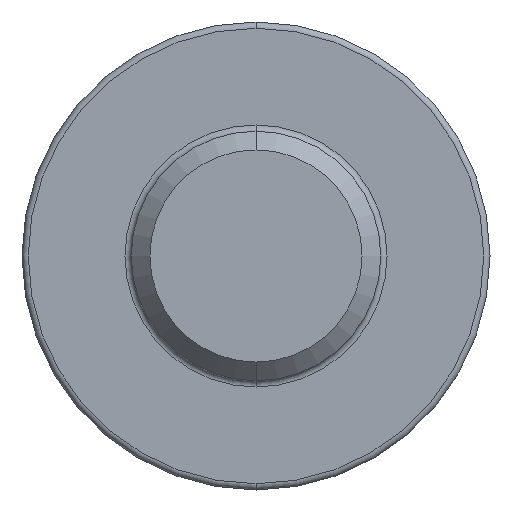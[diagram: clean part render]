
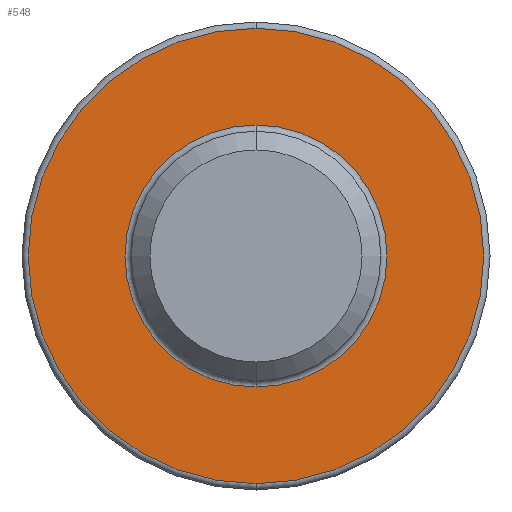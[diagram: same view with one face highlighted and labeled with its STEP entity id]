
A CAD part, front view. The second image highlights one B-rep face of the part: STEP entity #548.
In plain terms, the highlighted planar face has unit normal (0, -1, 0).
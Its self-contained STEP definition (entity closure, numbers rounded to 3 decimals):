
#40 = AXIS2_PLACEMENT_3D ( 'NONE', #299, #102, #641 ) ;
#79 = AXIS2_PLACEMENT_3D ( 'NONE', #789, #677, #83 ) ;
#83 = DIRECTION ( 'NONE',  ( 0., 0., 1. ) ) ;
#100 = CARTESIAN_POINT ( 'NONE',  ( 0., -2.4, 0. ) ) ;
#102 = DIRECTION ( 'NONE',  ( 0., 1., 0. ) ) ;
#158 = CARTESIAN_POINT ( 'NONE',  ( 0., -2.4, 3.65 ) ) ;
#167 = CARTESIAN_POINT ( 'NONE',  ( 0., -2.4, -2.1 ) ) ;
#183 = VERTEX_POINT ( 'NONE', #686 ) ;
#194 = EDGE_LOOP ( 'NONE', ( #796, #377 ) ) ;
#209 = VERTEX_POINT ( 'NONE', #158 ) ;
#244 = EDGE_LOOP ( 'NONE', ( #492, #826 ) ) ;
#256 = DIRECTION ( 'NONE',  ( 0., 0., 1. ) ) ;
#257 = CARTESIAN_POINT ( 'NONE',  ( 0., -2.4, 0. ) ) ;
#294 = VERTEX_POINT ( 'NONE', #167 ) ;
#296 = EDGE_CURVE ( 'NONE', #183, #294, #430, .T. ) ;
#299 = CARTESIAN_POINT ( 'NONE',  ( 2., -2.4, 0. ) ) ;
#315 = CARTESIAN_POINT ( 'NONE',  ( 0., -2.4, 0. ) ) ;
#320 = CARTESIAN_POINT ( 'NONE',  ( 0., -2.4, -3.65 ) ) ;
#370 = FACE_OUTER_BOUND ( 'NONE', #244, .T. ) ;
#377 = ORIENTED_EDGE ( 'NONE', *, *, #396, .T. ) ;
#396 = EDGE_CURVE ( 'NONE', #294, #183, #398, .T. ) ;
#398 = CIRCLE ( 'NONE', #79, 2.1 ) ;
#430 = CIRCLE ( 'NONE', #671, 2.1 ) ;
#480 = DIRECTION ( 'NONE',  ( 0., -1., 0. ) ) ;
#483 = EDGE_CURVE ( 'NONE', #209, #834, #484, .T. ) ;
#484 = CIRCLE ( 'NONE', #582, 3.65 ) ;
#485 = FACE_BOUND ( 'NONE', #194, .T. ) ;
#492 = ORIENTED_EDGE ( 'NONE', *, *, #483, .T. ) ;
#548 = ADVANCED_FACE ( 'NONE', ( #485, #370 ), #623, .F. ) ;
#566 = DIRECTION ( 'NONE',  ( 0., 1., 0. ) ) ;
#582 = AXIS2_PLACEMENT_3D ( 'NONE', #257, #480, #614 ) ;
#612 = AXIS2_PLACEMENT_3D ( 'NONE', #315, #854, #256 ) ;
#614 = DIRECTION ( 'NONE',  ( 0., 0., 1. ) ) ;
#623 = PLANE ( 'NONE',  #40 ) ;
#635 = DIRECTION ( 'NONE',  ( 0., 0., 1. ) ) ;
#641 = DIRECTION ( 'NONE',  ( 0., 0., 1. ) ) ;
#671 = AXIS2_PLACEMENT_3D ( 'NONE', #100, #566, #635 ) ;
#677 = DIRECTION ( 'NONE',  ( 0., 1., 0. ) ) ;
#683 = CIRCLE ( 'NONE', #612, 3.65 ) ;
#686 = CARTESIAN_POINT ( 'NONE',  ( 0., -2.4, 2.1 ) ) ;
#789 = CARTESIAN_POINT ( 'NONE',  ( 0., -2.4, 0. ) ) ;
#796 = ORIENTED_EDGE ( 'NONE', *, *, #296, .T. ) ;
#826 = ORIENTED_EDGE ( 'NONE', *, *, #845, .T. ) ;
#834 = VERTEX_POINT ( 'NONE', #320 ) ;
#845 = EDGE_CURVE ( 'NONE', #834, #209, #683, .T. ) ;
#854 = DIRECTION ( 'NONE',  ( 0., -1., 0. ) ) ;
